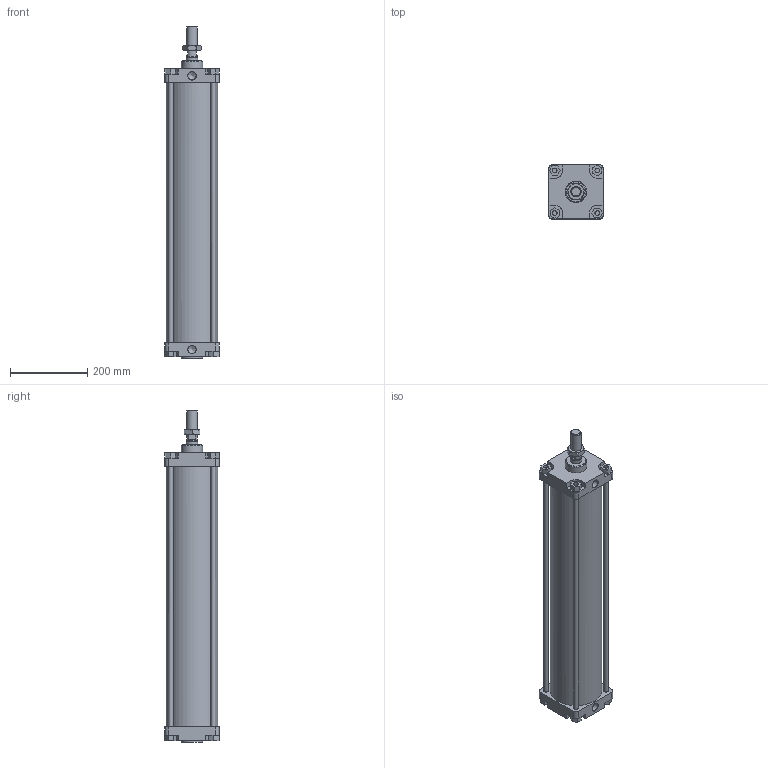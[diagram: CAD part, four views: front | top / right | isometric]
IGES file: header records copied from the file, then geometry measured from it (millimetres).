
Global section: file name: 1303_125_0600_01A; native system: Autodesk Inventor 2014; preprocessor: unknown; author: A. Manieri; date: 20161124.141621; units: millimetre
Bounding box: 140 x 140 x 858 mm (x, y, z)
Volume: 4123284.3 mm3; surface area: 924363.1 mm2
Topology: 9 solids, 9 shells, 175 faces, 440 edges, 295 vertices
Faces by surface type: bspline 175
